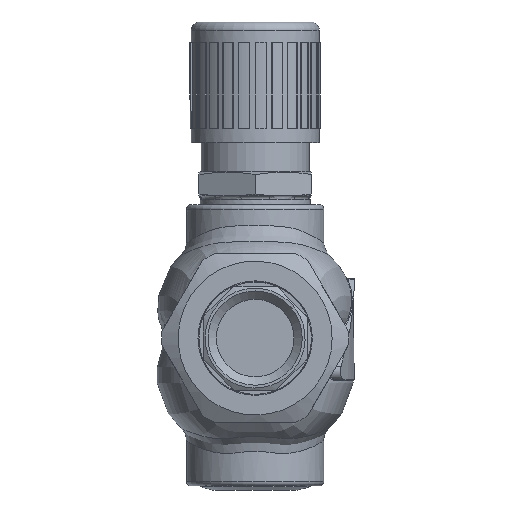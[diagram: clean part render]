
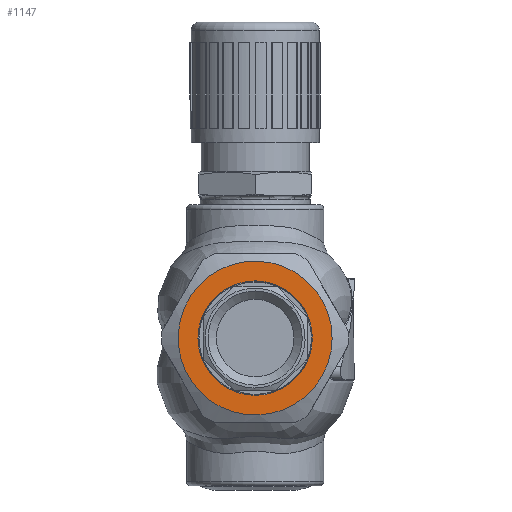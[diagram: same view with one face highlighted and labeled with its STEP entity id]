
A CAD part, left-side view. The second image highlights one B-rep face of the part: STEP entity #1147.
In plain terms, the highlighted planar face has unit normal (-1, 0, 0).
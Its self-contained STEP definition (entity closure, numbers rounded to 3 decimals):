
#1147=ADVANCED_FACE('',(#1644,#1645),#1451,.T.);
#1451=PLANE('',#4958);
#1644=FACE_BOUND('',#1847,.T.);
#1645=FACE_BOUND('',#1848,.T.);
#1847=EDGE_LOOP('',(#2287));
#1848=EDGE_LOOP('',(#2288));
#2287=ORIENTED_EDGE('',*,*,#4035,.T.);
#2288=ORIENTED_EDGE('',*,*,#4036,.T.);
#3581=VERTEX_POINT('',#6935);
#3582=VERTEX_POINT('',#6937);
#4035=EDGE_CURVE('',#3581,#3581,#4676,.T.);
#4036=EDGE_CURVE('',#3582,#3582,#4677,.T.);
#4676=CIRCLE('',#4956,13.75);
#4677=CIRCLE('',#4957,18.5);
#4956=AXIS2_PLACEMENT_3D('',#6934,#5555,#5556);
#4957=AXIS2_PLACEMENT_3D('',#6936,#5557,#5558);
#4958=AXIS2_PLACEMENT_3D('',#6938,#5559,#5560);
#5555=DIRECTION('',(1.,0.,0.));
#5556=DIRECTION('',(0.,1.,0.));
#5557=DIRECTION('',(-1.,0.,0.));
#5558=DIRECTION('',(0.,-1.,0.));
#5559=DIRECTION('',(-1.,0.,0.));
#5560=DIRECTION('',(0.,-1.,0.));
#6934=CARTESIAN_POINT('',(40.,0.,100.));
#6935=CARTESIAN_POINT('',(40.,13.75,100.));
#6936=CARTESIAN_POINT('',(40.,0.,100.));
#6937=CARTESIAN_POINT('',(40.,-18.5,100.));
#6938=CARTESIAN_POINT('',(40.,0.,100.));
